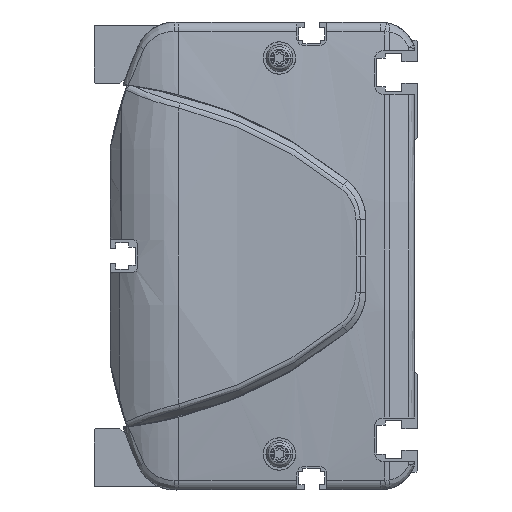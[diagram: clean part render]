
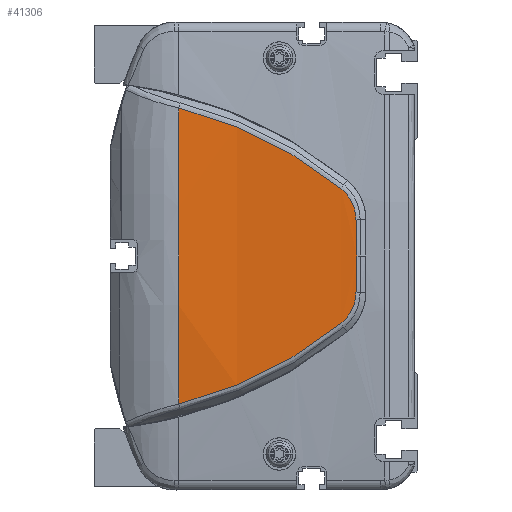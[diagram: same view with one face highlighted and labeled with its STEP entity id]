
A CAD part, left-side view. The second image highlights one B-rep face of the part: STEP entity #41306.
In plain terms, the highlighted cylindrical face has radius 500 mm (diameter 1000 mm), a partial arc.
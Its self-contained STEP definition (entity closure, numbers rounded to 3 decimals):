
#37562=CARTESIAN_POINT('',(486.,66.362,0.));
#37563=DIRECTION('',(0.,-1.,0.));
#37564=DIRECTION('',(-0.997,0.,0.082));
#37565=AXIS2_PLACEMENT_3D('',#37562,#37563,#37564);
#38446=CARTESIAN_POINT('',(-13.648,21.313,
-18.759));
#38447=CARTESIAN_POINT('',(-13.449,27.904,
-24.058));
#38448=CARTESIAN_POINT('',(-12.934,42.195,
-33.27));
#38449=CARTESIAN_POINT('',(-12.471,58.156,
-39.127));
#38450=CARTESIAN_POINT('',(-12.306,66.362,
-41.121));
#38452=CARTESIAN_POINT('',(-12.306,66.362,
41.121));
#38453=CARTESIAN_POINT('',(-12.471,58.156,
39.127));
#38454=CARTESIAN_POINT('',(-12.934,42.195,
33.27));
#38455=CARTESIAN_POINT('',(-13.449,27.904,
24.058));
#38456=CARTESIAN_POINT('',(-13.648,21.313,
18.759));
#38458=CARTESIAN_POINT('',(-13.648,21.313,
18.759));
#38459=CARTESIAN_POINT('',(-13.686,20.035,
17.736));
#38460=CARTESIAN_POINT('',(-13.779,17.936,
15.107));
#38461=CARTESIAN_POINT('',(-13.863,17.152,
11.827));
#38462=CARTESIAN_POINT('',(-13.896,17.124,
10.178));
#38464=CARTESIAN_POINT('',(-13.896,17.124,
10.178));
#38465=CARTESIAN_POINT('',(-13.92,17.107,
9.027));
#38466=CARTESIAN_POINT('',(-13.958,17.067,
6.738));
#38467=CARTESIAN_POINT('',(-13.993,16.98,
3.344));
#38468=CARTESIAN_POINT('',(-14.,16.898,
1.11));
#38469=CARTESIAN_POINT('',(-14.,16.849,
0.));
#38471=CARTESIAN_POINT('',(-14.,16.849,
0.));
#38472=CARTESIAN_POINT('',(-14.,16.898,
-1.11));
#38473=CARTESIAN_POINT('',(-13.993,16.98,
-3.344));
#38474=CARTESIAN_POINT('',(-13.959,17.067,
-6.737));
#38475=CARTESIAN_POINT('',(-13.92,17.107,
-9.029));
#38476=CARTESIAN_POINT('',(-13.896,17.124,
-10.18));
#38478=CARTESIAN_POINT('',(-13.896,17.124,
-10.18));
#38479=CARTESIAN_POINT('',(-13.863,17.152,
-11.828));
#38480=CARTESIAN_POINT('',(-13.779,17.937,
-15.109));
#38481=CARTESIAN_POINT('',(-13.686,20.035,
-17.736));
#38482=CARTESIAN_POINT('',(-13.648,21.313,
-18.759));
#39130=VERTEX_POINT('',#38446);
#39131=VERTEX_POINT('',#38450);
#39132=CARTESIAN_POINT('',(-12.306,66.362,
41.121));
#39133=VERTEX_POINT('',#39132);
#39134=VERTEX_POINT('',#38456);
#39135=VERTEX_POINT('',#38462);
#39136=VERTEX_POINT('',#38469);
#39137=VERTEX_POINT('',#38476);
#41287=CARTESIAN_POINT('',(486.,8.006,0.));
#41288=DIRECTION('',(0.,1.,0.));
#41289=DIRECTION('',(1.,0.,0.));
#41290=AXIS2_PLACEMENT_3D('',#41287,#41288,#41289);
#41291=CYLINDRICAL_SURFACE('',#41290,500.);
#41293=ORIENTED_EDGE('',*,*,#41292,.T.);
#41294=ORIENTED_EDGE('',*,*,#39932,.F.);
#41296=ORIENTED_EDGE('',*,*,#41295,.T.);
#41298=ORIENTED_EDGE('',*,*,#41297,.T.);
#41300=ORIENTED_EDGE('',*,*,#41299,.T.);
#41302=ORIENTED_EDGE('',*,*,#41301,.T.);
#41303=ORIENTED_EDGE('',*,*,#41277,.T.);
#41304=EDGE_LOOP('',(#41293,#41294,#41296,#41298,#41300,#41302,#41303));
#41305=FACE_OUTER_BOUND('',#41304,.F.);
#41306=ADVANCED_FACE('',(#41305),#41291,.T.);
#37566=CIRCLE('',#37565,500.);
#38451=B_SPLINE_CURVE_WITH_KNOTS('',3,(#38446,#38447,#38448,#38449,#38450),
.UNSPECIFIED.,.F.,.F.,(4,1,4),(0.,0.5,1.),.UNSPECIFIED.);
#38457=B_SPLINE_CURVE_WITH_KNOTS('',3,(#38452,#38453,#38454,#38455,#38456),
.UNSPECIFIED.,.F.,.F.,(4,1,4),(0.,0.5,1.),.UNSPECIFIED.);
#38463=B_SPLINE_CURVE_WITH_KNOTS('',3,(#38458,#38459,#38460,#38461,#38462),
.UNSPECIFIED.,.F.,.F.,(4,1,4),(0.,0.5,1.),.UNSPECIFIED.);
#38470=B_SPLINE_CURVE_WITH_KNOTS('',3,(#38464,#38465,#38466,#38467,#38468,
#38469),.UNSPECIFIED.,.F.,.F.,(4,1,1,4),(0.,0.333,
0.667,1.),.UNSPECIFIED.);
#38477=B_SPLINE_CURVE_WITH_KNOTS('',3,(#38471,#38472,#38473,#38474,#38475,
#38476),.UNSPECIFIED.,.F.,.F.,(4,1,1,4),(0.,0.333,
0.667,1.),.UNSPECIFIED.);
#38483=B_SPLINE_CURVE_WITH_KNOTS('',3,(#38478,#38479,#38480,#38481,#38482),
.UNSPECIFIED.,.F.,.F.,(4,1,4),(0.,0.5,1.),.UNSPECIFIED.);
#39932=EDGE_CURVE('',#39133,#39131,#37566,.T.);
#41277=EDGE_CURVE('',#39137,#39130,#38483,.T.);
#41292=EDGE_CURVE('',#39130,#39131,#38451,.T.);
#41295=EDGE_CURVE('',#39133,#39134,#38457,.T.);
#41297=EDGE_CURVE('',#39134,#39135,#38463,.T.);
#41299=EDGE_CURVE('',#39135,#39136,#38470,.T.);
#41301=EDGE_CURVE('',#39136,#39137,#38477,.T.);
